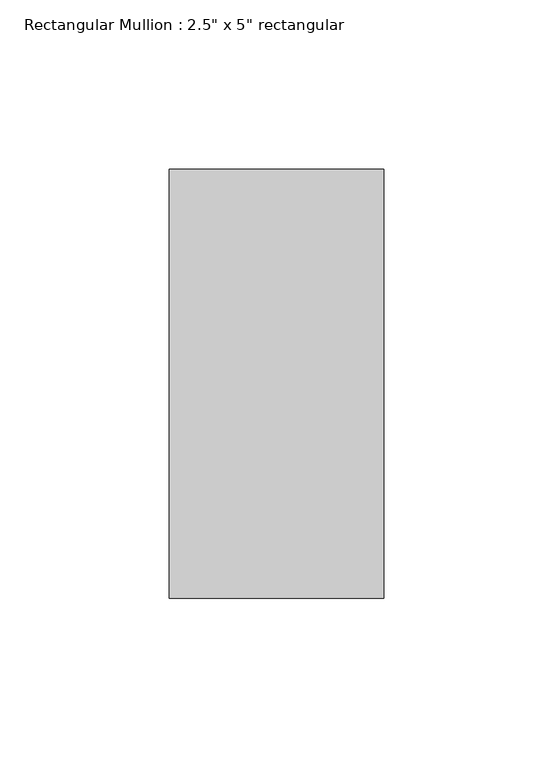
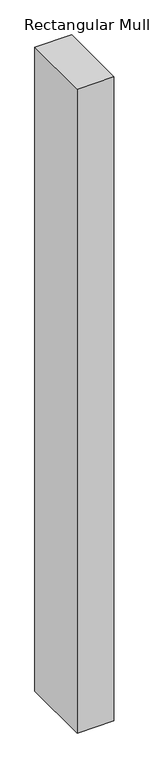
"""IFC4 building model written with IfcOpenShell, lengths in millimetres: member geometry."""

from ifc_helpers import new_model, si_unit, frame, origin, place, context, project, spatial, polyline, outline, extrude, source, transform, mapped, element, save


def member_8727bc12(model_context):
    return source(origin(), model_context, "Body", "SweptSolid", [
        extrude(outline(polyline([(0.0, 50.8), (0.0, -76.2), (-63.5, -76.2), (-63.5, 50.8), (0.0, 50.8)])), frame((0.0, 0.0, -1179.1311415), z_axis=(0.0, 0.0, 1.0), x_axis=(1.0, 0.0, 0.0)), (0.0, 0.0, 1.0), 1179.1311415),
    ])


if __name__ == "__main__":
    model = new_model("IFC4")
    model_context = context("Model", 3, world=origin())
    ifc_project = project(units=[si_unit("LENGTHUNIT", "METRE", prefix="MILLI")], contexts=[model_context])
    site = spatial("IfcSite", under=ifc_project)
    building = spatial("IfcBuilding", under=site)
    placement = place(None, origin())
    member_shape = member_8727bc12(model_context)
    element("IfcMember", 1, ObjectType="Rectangular Mullion : 2.5\" x 5\" rectangular", at=placement, inside=building, context=model_context, shape_type="MappedRepresentation", body=[
        mapped(member_shape, transform((0.0, 0.0, 0.0), x_axis=(1.0, 0.0, 0.0), y_axis=(0.0, 1.0, 0.0), z_axis=(0.0, 0.0, 1.0))),
    ])
    save(model, "model.ifc")
